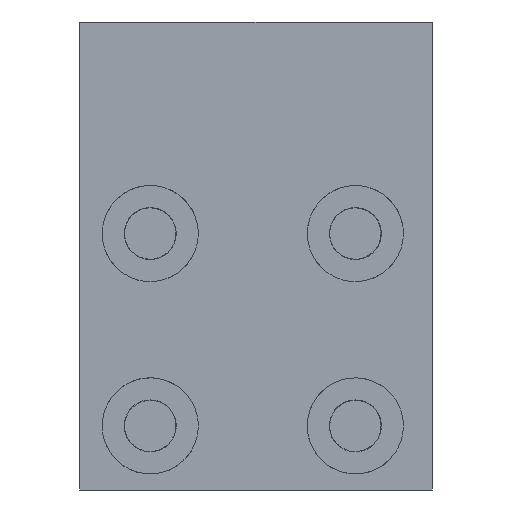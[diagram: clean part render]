
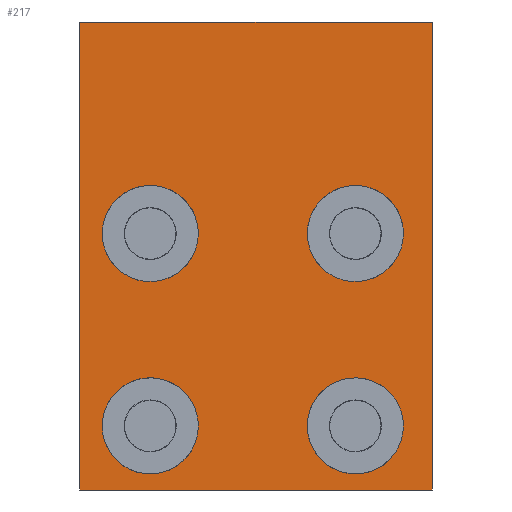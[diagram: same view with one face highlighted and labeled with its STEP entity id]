
A CAD part, front view. The second image highlights one B-rep face of the part: STEP entity #217.
In plain terms, the highlighted planar face has unit normal (0, -1, 0).
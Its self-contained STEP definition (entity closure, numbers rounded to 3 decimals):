
#217=ADVANCED_FACE('EGT_177_RD30_K50_63_HLR_ET.1_Hauptk\X2\00F6\X0\rper',(#509,#510,#511,#512,#513),#514,.F.);
#509=FACE_OUTER_BOUND('',#929,.T.);
#510=FACE_BOUND('',#930,.T.);
#511=FACE_BOUND('',#931,.T.);
#512=FACE_BOUND('',#932,.T.);
#513=FACE_BOUND('',#933,.T.);
#514=PLANE('',#934);
#929=EDGE_LOOP('',(#1421,#1422,#1423,#1424));
#930=EDGE_LOOP('',(#1425,#1426,#1427));
#931=EDGE_LOOP('',(#1428,#1429,#1430));
#932=EDGE_LOOP('',(#1431,#1432,#1433));
#933=EDGE_LOOP('',(#1434,#1435,#1436));
#934=AXIS2_PLACEMENT_3D('',#1437,#1438,#1439);
#1421=ORIENTED_EDGE('',*,*,#2467,.F.);
#1422=ORIENTED_EDGE('',*,*,#2468,.F.);
#1423=ORIENTED_EDGE('',*,*,#2469,.T.);
#1424=ORIENTED_EDGE('',*,*,#2470,.T.);
#1425=ORIENTED_EDGE('',*,*,#2462,.T.);
#1426=ORIENTED_EDGE('',*,*,#2454,.T.);
#1427=ORIENTED_EDGE('',*,*,#2463,.T.);
#1428=ORIENTED_EDGE('',*,*,#2471,.T.);
#1429=ORIENTED_EDGE('',*,*,#2442,.T.);
#1430=ORIENTED_EDGE('',*,*,#2472,.T.);
#1431=ORIENTED_EDGE('',*,*,#2473,.T.);
#1432=ORIENTED_EDGE('',*,*,#2437,.T.);
#1433=ORIENTED_EDGE('',*,*,#2474,.T.);
#1434=ORIENTED_EDGE('',*,*,#2475,.T.);
#1435=ORIENTED_EDGE('',*,*,#2432,.T.);
#1436=ORIENTED_EDGE('',*,*,#2476,.T.);
#1437=CARTESIAN_POINT('',(27.5,-20.0,0.0));
#1438=DIRECTION('',(0.0,1.0,0.0));
#1439=DIRECTION('',(0.0,0.0,1.0));
#2432=EDGE_CURVE('',#2920,#2917,#2921,.T.);
#2437=EDGE_CURVE('',#2929,#2926,#2930,.T.);
#2442=EDGE_CURVE('',#2938,#2935,#2939,.T.);
#2454=EDGE_CURVE('',#2960,#2957,#2961,.T.);
#2462=EDGE_CURVE('',#2971,#2960,#2972,.T.);
#2463=EDGE_CURVE('',#2957,#2971,#2973,.T.);
#2467=EDGE_CURVE('',#2977,#2978,#2979,.T.);
#2468=EDGE_CURVE('',#2980,#2977,#2981,.T.);
#2469=EDGE_CURVE('',#2980,#2982,#2983,.T.);
#2470=EDGE_CURVE('',#2982,#2978,#2984,.T.);
#2471=EDGE_CURVE('',#2985,#2938,#2986,.T.);
#2472=EDGE_CURVE('',#2935,#2985,#2987,.T.);
#2473=EDGE_CURVE('',#2988,#2929,#2989,.T.);
#2474=EDGE_CURVE('',#2926,#2988,#2990,.T.);
#2475=EDGE_CURVE('',#2991,#2920,#2992,.T.);
#2476=EDGE_CURVE('',#2917,#2991,#2993,.T.);
#2917=VERTEX_POINT('',#3900);
#2920=VERTEX_POINT('',#3904);
#2921=(B_SPLINE_CURVE(2,(#3906,#3907,#3908,#3909,#3910),.UNSPECIFIED.,.F.,.F.)B_SPLINE_CURVE_WITH_KNOTS((3,2,3),(2.642,4.212,5.783),.UNSPECIFIED.)RATIONAL_B_SPLINE_CURVE((1.0,0.707,1.0,0.707,1.0))BOUNDED_CURVE()REPRESENTATION_ITEM('')GEOMETRIC_REPRESENTATION_ITEM()CURVE());
#2926=VERTEX_POINT('',#3933);
#2929=VERTEX_POINT('',#3937);
#2930=(B_SPLINE_CURVE(2,(#3939,#3940,#3941,#3942,#3943),.UNSPECIFIED.,.F.,.F.)B_SPLINE_CURVE_WITH_KNOTS((3,2,3),(2.642,4.212,5.783),.UNSPECIFIED.)RATIONAL_B_SPLINE_CURVE((1.0,0.707,1.0,0.707,1.0))BOUNDED_CURVE()REPRESENTATION_ITEM('')GEOMETRIC_REPRESENTATION_ITEM()CURVE());
#2935=VERTEX_POINT('',#3966);
#2938=VERTEX_POINT('',#3970);
#2939=(B_SPLINE_CURVE(2,(#3972,#3973,#3974,#3975,#3976),.UNSPECIFIED.,.F.,.F.)B_SPLINE_CURVE_WITH_KNOTS((3,2,3),(2.642,4.212,5.783),.UNSPECIFIED.)RATIONAL_B_SPLINE_CURVE((1.0,0.707,1.0,0.707,1.0))BOUNDED_CURVE()REPRESENTATION_ITEM('')GEOMETRIC_REPRESENTATION_ITEM()CURVE());
#2957=VERTEX_POINT('',#4054);
#2960=VERTEX_POINT('',#4058);
#2961=(B_SPLINE_CURVE(4,(#4060,#4061,#4062,#4063,#4064),.UNSPECIFIED.,.F.,.F.)B_SPLINE_CURVE_WITH_KNOTS((5,5),(0.,23.562),.UNSPECIFIED.)RATIONAL_B_SPLINE_CURVE((1.0,0.707,0.667,0.707,1.0))BOUNDED_CURVE()REPRESENTATION_ITEM('')GEOMETRIC_REPRESENTATION_ITEM()CURVE());
#2971=VERTEX_POINT('',#4123);
#2972=(B_SPLINE_CURVE(4,(#4125,#4126,#4127,#4128,#4129),.UNSPECIFIED.,.F.,.F.)B_SPLINE_CURVE_WITH_KNOTS((5,5),(27.312,47.124),.UNSPECIFIED.)RATIONAL_B_SPLINE_CURVE((1.0,0.79,0.749,0.79,1.0))BOUNDED_CURVE()REPRESENTATION_ITEM('')GEOMETRIC_REPRESENTATION_ITEM()CURVE());
#2973=(B_SPLINE_CURVE(2,(#4137,#4138,#4139),.UNSPECIFIED.,.F.,.F.)B_SPLINE_CURVE_WITH_KNOTS((3,3),(23.562,27.312),.UNSPECIFIED.)RATIONAL_B_SPLINE_CURVE((1.0,0.969,1.0))BOUNDED_CURVE()REPRESENTATION_ITEM('')GEOMETRIC_REPRESENTATION_ITEM()CURVE());
#2977=VERTEX_POINT('',#4160);
#2978=VERTEX_POINT('',#4161);
#2979=B_SPLINE_CURVE_WITH_KNOTS('',1,(#4162,#4163),.UNSPECIFIED.,.F.,.F.,(2,2),(0.0,1.0),.UNSPECIFIED.);
#2980=VERTEX_POINT('',#4164);
#2981=B_SPLINE_CURVE_WITH_KNOTS('',1,(#4165,#4166),.UNSPECIFIED.,.F.,.F.,(2,2),(0.0,1.0),.UNSPECIFIED.);
#2982=VERTEX_POINT('',#4167);
#2983=B_SPLINE_CURVE_WITH_KNOTS('',1,(#4168,#4169),.UNSPECIFIED.,.F.,.F.,(2,2),(0.0,1.0),.UNSPECIFIED.);
#2984=B_SPLINE_CURVE_WITH_KNOTS('',1,(#4170,#4171),.UNSPECIFIED.,.F.,.F.,(2,2),(0.0,1.0),.UNSPECIFIED.);
#2985=VERTEX_POINT('',#4172);
#2986=(B_SPLINE_CURVE(2,(#4174,#4175,#4176,#4177,#4178),.UNSPECIFIED.,.F.,.F.)B_SPLINE_CURVE_WITH_KNOTS((3,2,3),(0.0,1.321,2.642),.UNSPECIFIED.)RATIONAL_B_SPLINE_CURVE((1.0,0.79,1.0,0.79,1.0))BOUNDED_CURVE()REPRESENTATION_ITEM('')GEOMETRIC_REPRESENTATION_ITEM()CURVE());
#2987=(B_SPLINE_CURVE(2,(#4186,#4187,#4188),.UNSPECIFIED.,.F.,.F.)B_SPLINE_CURVE_WITH_KNOTS((3,3),(5.783,6.283),.UNSPECIFIED.)RATIONAL_B_SPLINE_CURVE((1.0,0.969,1.0))BOUNDED_CURVE()REPRESENTATION_ITEM('')GEOMETRIC_REPRESENTATION_ITEM()CURVE());
#2988=VERTEX_POINT('',#4195);
#2989=(B_SPLINE_CURVE(2,(#4197,#4198,#4199,#4200,#4201),.UNSPECIFIED.,.F.,.F.)B_SPLINE_CURVE_WITH_KNOTS((3,2,3),(0.0,1.321,2.642),.UNSPECIFIED.)RATIONAL_B_SPLINE_CURVE((1.0,0.79,1.0,0.79,1.0))BOUNDED_CURVE()REPRESENTATION_ITEM('')GEOMETRIC_REPRESENTATION_ITEM()CURVE());
#2990=(B_SPLINE_CURVE(2,(#4209,#4210,#4211),.UNSPECIFIED.,.F.,.F.)B_SPLINE_CURVE_WITH_KNOTS((3,3),(5.783,6.283),.UNSPECIFIED.)RATIONAL_B_SPLINE_CURVE((1.0,0.969,1.0))BOUNDED_CURVE()REPRESENTATION_ITEM('')GEOMETRIC_REPRESENTATION_ITEM()CURVE());
#2991=VERTEX_POINT('',#4218);
#2992=(B_SPLINE_CURVE(2,(#4220,#4221,#4222,#4223,#4224),.UNSPECIFIED.,.F.,.F.)B_SPLINE_CURVE_WITH_KNOTS((3,2,3),(0.0,1.321,2.642),.UNSPECIFIED.)RATIONAL_B_SPLINE_CURVE((1.0,0.79,1.0,0.79,1.0))BOUNDED_CURVE()REPRESENTATION_ITEM('')GEOMETRIC_REPRESENTATION_ITEM()CURVE());
#2993=(B_SPLINE_CURVE(2,(#4232,#4233,#4234),.UNSPECIFIED.,.F.,.F.)B_SPLINE_CURVE_WITH_KNOTS((3,3),(5.783,6.283),.UNSPECIFIED.)RATIONAL_B_SPLINE_CURVE((1.0,0.969,1.0))BOUNDED_CURVE()REPRESENTATION_ITEM('')GEOMETRIC_REPRESENTATION_ITEM()CURVE());
#3900=CARTESIAN_POINT('',(-9.,-20.0,40.0));
#3904=CARTESIAN_POINT('',(-24.0,-20.0,40.0));
#3906=CARTESIAN_POINT('',(-24.0,-20.0,40.0));
#3907=CARTESIAN_POINT('',(-24.0,-20.0,47.5));
#3908=CARTESIAN_POINT('',(-16.5,-20.0,47.5));
#3909=CARTESIAN_POINT('',(-9.,-20.0,47.5));
#3910=CARTESIAN_POINT('',(-9.0,-20.0,40.0));
#3933=CARTESIAN_POINT('',(23.0,-20.0,40.0));
#3937=CARTESIAN_POINT('',(8.0,-20.0,40.0));
#3939=CARTESIAN_POINT('',(8.0,-20.0,40.0));
#3940=CARTESIAN_POINT('',(8.0,-20.0,47.5));
#3941=CARTESIAN_POINT('',(15.5,-20.0,47.5));
#3942=CARTESIAN_POINT('',(23.0,-20.0,47.5));
#3943=CARTESIAN_POINT('',(23.0,-20.0,40.0));
#3966=CARTESIAN_POINT('',(-9.,-20.0,10.0));
#3970=CARTESIAN_POINT('',(-24.0,-20.0,10.0));
#3972=CARTESIAN_POINT('',(-24.0,-20.0,10.0));
#3973=CARTESIAN_POINT('',(-24.0,-20.0,17.5));
#3974=CARTESIAN_POINT('',(-16.5,-20.0,17.5));
#3975=CARTESIAN_POINT('',(-9.,-20.0,17.5));
#3976=CARTESIAN_POINT('',(-9.,-20.0,10.0));
#4054=CARTESIAN_POINT('',(23.0,-20.0,10.0));
#4058=CARTESIAN_POINT('',(8.,-20.0,10.0));
#4060=CARTESIAN_POINT('',(8.,-20.0,10.0));
#4061=CARTESIAN_POINT('',(8.,-20.0,17.5));
#4062=CARTESIAN_POINT('',(15.5,-20.0,21.25));
#4063=CARTESIAN_POINT('',(23.0,-20.0,17.5));
#4064=CARTESIAN_POINT('',(23.0,-20.0,10.0));
#4123=CARTESIAN_POINT('',(22.082,-20.0,6.404));
#4125=CARTESIAN_POINT('',(22.082,-20.0,6.404));
#4126=CARTESIAN_POINT('',(19.289,-20.0,1.292));
#4127=CARTESIAN_POINT('',(13.023,-20.0,0.3));
#4128=CARTESIAN_POINT('',(8.0,-20.0,4.174));
#4129=CARTESIAN_POINT('',(8.,-20.0,10.));
#4137=CARTESIAN_POINT('',(23.0,-20.0,10.0));
#4138=CARTESIAN_POINT('',(23.0,-20.0,8.085));
#4139=CARTESIAN_POINT('',(22.082,-20.0,6.404));
#4160=CARTESIAN_POINT('',(-27.5,-20.0,73.0));
#4161=CARTESIAN_POINT('',(27.5,-20.0,73.0));
#4162=CARTESIAN_POINT('',(-27.5,-20.0,73.0));
#4163=CARTESIAN_POINT('',(27.5,-20.0,73.0));
#4164=CARTESIAN_POINT('',(-27.5,-20.0,0.0));
#4165=CARTESIAN_POINT('',(-27.5,-20.0,0.0));
#4166=CARTESIAN_POINT('',(-27.5,-20.0,73.0));
#4167=CARTESIAN_POINT('',(27.5,-20.0,0.0));
#4168=CARTESIAN_POINT('',(-27.5,-20.0,0.0));
#4169=CARTESIAN_POINT('',(27.5,-20.0,0.0));
#4170=CARTESIAN_POINT('',(27.5,-20.0,0.0));
#4171=CARTESIAN_POINT('',(27.5,-20.0,73.0));
#4172=CARTESIAN_POINT('',(-9.918,-20.0,6.404));
#4174=CARTESIAN_POINT('',(-9.918,-20.0,6.404));
#4175=CARTESIAN_POINT('',(-12.711,-20.0,1.292));
#4176=CARTESIAN_POINT('',(-18.356,-20.0,2.733));
#4177=CARTESIAN_POINT('',(-24.0,-20.0,4.174));
#4178=CARTESIAN_POINT('',(-24.0,-20.0,10.0));
#4186=CARTESIAN_POINT('',(-9.,-20.0,10.0));
#4187=CARTESIAN_POINT('',(-9.,-20.0,8.085));
#4188=CARTESIAN_POINT('',(-9.918,-20.0,6.404));
#4195=CARTESIAN_POINT('',(22.082,-20.0,36.404));
#4197=CARTESIAN_POINT('',(22.082,-20.0,36.404));
#4198=CARTESIAN_POINT('',(19.289,-20.0,31.292));
#4199=CARTESIAN_POINT('',(13.644,-20.0,32.733));
#4200=CARTESIAN_POINT('',(8.0,-20.0,34.174));
#4201=CARTESIAN_POINT('',(8.0,-20.0,40.0));
#4209=CARTESIAN_POINT('',(23.0,-20.0,40.0));
#4210=CARTESIAN_POINT('',(23.0,-20.0,38.085));
#4211=CARTESIAN_POINT('',(22.082,-20.0,36.404));
#4218=CARTESIAN_POINT('',(-9.918,-20.0,36.404));
#4220=CARTESIAN_POINT('',(-9.918,-20.0,36.404));
#4221=CARTESIAN_POINT('',(-12.711,-20.0,31.292));
#4222=CARTESIAN_POINT('',(-18.356,-20.0,32.733));
#4223=CARTESIAN_POINT('',(-24.0,-20.0,34.174));
#4224=CARTESIAN_POINT('',(-24.0,-20.0,40.0));
#4232=CARTESIAN_POINT('',(-9.0,-20.0,40.0));
#4233=CARTESIAN_POINT('',(-9.0,-20.0,38.085));
#4234=CARTESIAN_POINT('',(-9.918,-20.0,36.404));
